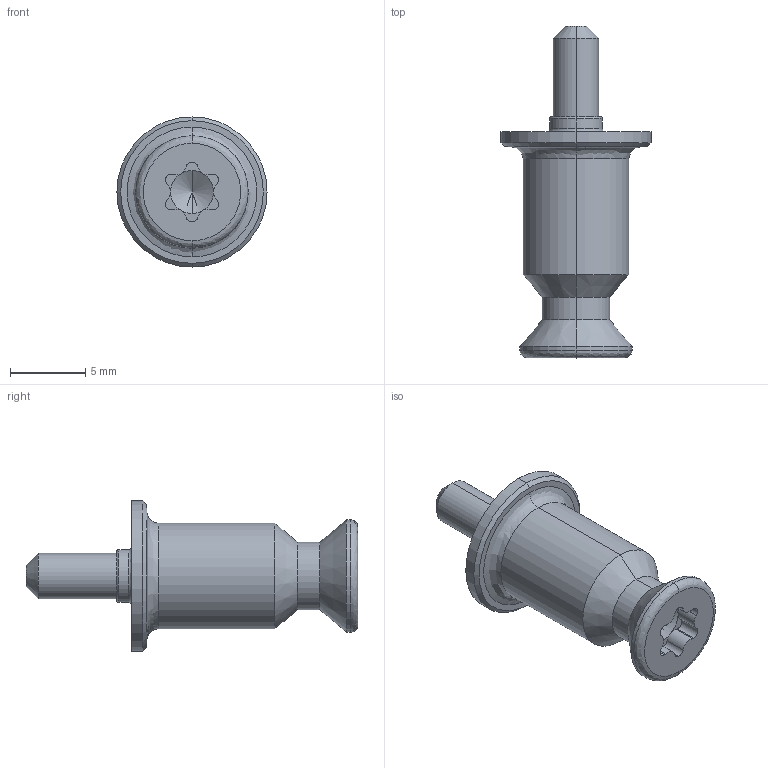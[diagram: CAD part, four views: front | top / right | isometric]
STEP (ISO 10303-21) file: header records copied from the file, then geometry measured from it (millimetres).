
FILE_DESCRIPTION (( 'STEP AP203' ), '1' );
FILE_NAME ('QS022-EF-M3.STEP', '2016-07-11T09:49:52', ( '' ), ( '' ), 'SwSTEP 2.0', 'SolidWorks 2016', '' );
FILE_SCHEMA (( 'CONFIG_CONTROL_DESIGN' ));
Length unit declared in the file: millimetre
Products named in the file (1): QS022-EF-M3
Bounding box: 9.95 x 22 x 9.95 mm (x, y, z)
Volume: 586.4 mm3; surface area: 699.2 mm2
Topology: 2 solids, 2 shells, 75 faces, 175 edges, 103 vertices
Faces by surface type: cylinder 31, cone 18, plane 18, bspline 8
Entity records: 2374 total; most frequent: CARTESIAN_POINT 596, DIRECTION 391, ORIENTED_EDGE 338, EDGE_CURVE 169, AXIS2_PLACEMENT_3D 162, VERTEX_POINT 103, CIRCLE 94, EDGE_LOOP 80
